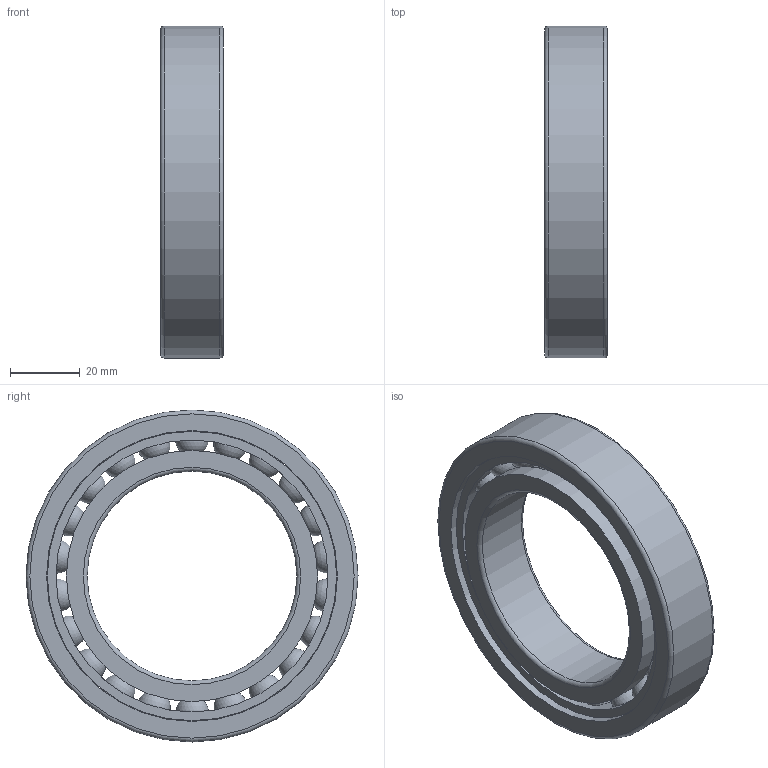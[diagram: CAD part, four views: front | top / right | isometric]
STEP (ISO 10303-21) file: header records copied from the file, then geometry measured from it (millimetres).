
FILE_DESCRIPTION(/* description */ (''),/* implementation_level */ '2;1');
FILE_NAME(/* name */ 'S_6012_TA.step',/* time_stamp */ '2013-03-06T14:43:36+01:00',/* author */ ('Marian'),/* organization */ ('GMN'),/* preprocessor_version */ 'ST-DEVELOPER v11',/* originating_system */ 'SIEMENS UGS NX 6.0',/* authorisation */ '');
FILE_SCHEMA (('CONFIG_CONTROL_DESIGN'));
Length unit declared in the file: millimetre
Products named in the file (1): S_6012_TA
Bounding box: 18 x 95 x 95 mm (x, y, z)
Volume: 57906.9 mm3; surface area: 35866.4 mm2
Topology: 25 solids, 25 shells, 64 faces, 170 edges, 110 vertices
Faces by surface type: cylinder 29, sphere 22, torus 6, plane 6, cone 1
Full cylindrical faces by diameter (mm): 9.725 x22, 60 x1, 71.9 x2, 77.825 x1, 82.8 x1, 83.2 x1, 95 x1
Entity records: 2126 total; most frequent: CARTESIAN_POINT 963, DIRECTION 170, FACE_BOUND 150, EDGE_LOOP 128, ORIENTED_EDGE 128, VERTEX_POINT 86, AXIS2_PLACEMENT_3D 85, EDGE_CURVE 64
